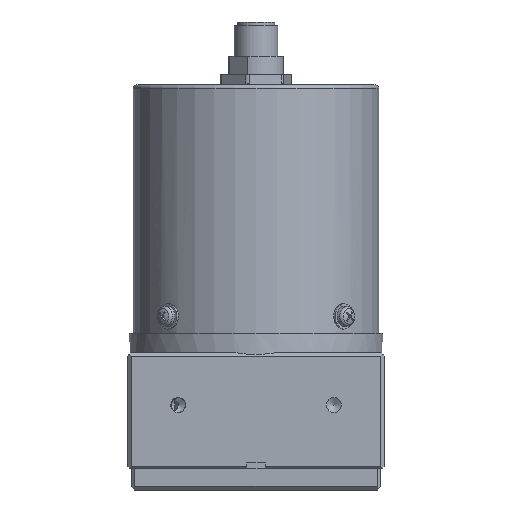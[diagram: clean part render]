
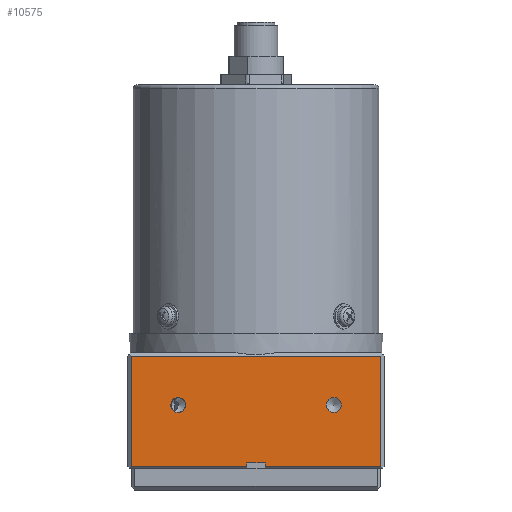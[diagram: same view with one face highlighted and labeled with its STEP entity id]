
A CAD part, front view. The second image highlights one B-rep face of the part: STEP entity #10575.
In plain terms, the highlighted planar face has unit normal (0, -1, 0).
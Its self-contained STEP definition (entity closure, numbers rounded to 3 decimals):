
#9839=CARTESIAN_POINT('',(1.,0.,-31.5));
#9840=VERTEX_POINT('',#9839);
#9847=CARTESIAN_POINT('',(1.,0.,-1.));
#9848=VERTEX_POINT('',#9847);
#9849=CARTESIAN_POINT('',(1.,0.,-31.5));
#9850=DIRECTION('',(0.0,0.0,1.0));
#9851=VECTOR('',#9850,30.5);
#9852=LINE('',#9849,#9851);
#9853=EDGE_CURVE('',#9840,#9848,#9852,.T.);
#10075=CARTESIAN_POINT('',(33.,0.,-31.5));
#10076=VERTEX_POINT('',#10075);
#10083=CARTESIAN_POINT('',(33.,0.,-31.5));
#10084=DIRECTION('',(-1.0,0.0,0.0));
#10085=VECTOR('',#10084,32.);
#10086=LINE('',#10083,#10085);
#10087=EDGE_CURVE('',#10076,#9840,#10086,.T.);
#10107=CARTESIAN_POINT('',(70.,0.,-1.));
#10108=VERTEX_POINT('',#10107);
#10115=CARTESIAN_POINT('',(70.,0.,-31.5));
#10116=VERTEX_POINT('',#10115);
#10117=CARTESIAN_POINT('',(70.,0.,-1.));
#10118=DIRECTION('',(0.0,0.0,-1.0));
#10119=VECTOR('',#10118,30.5);
#10120=LINE('',#10117,#10119);
#10121=EDGE_CURVE('',#10108,#10116,#10120,.T.);
#10374=CARTESIAN_POINT('',(59.067,0.,-14.5));
#10375=VERTEX_POINT('',#10374);
#10376=CARTESIAN_POINT('',(57.,0.0,-14.5));
#10377=DIRECTION('',(0.0,1.0,0.0));
#10378=DIRECTION('',(1.0,0.0,0.0));
#10379=AXIS2_PLACEMENT_3D('',#10376,#10377,#10378);
#10380=CIRCLE('',#10379,2.067);
#10381=EDGE_CURVE('',#10375,#10375,#10380,.T.);
#10494=CARTESIAN_POINT('',(16.067,0.,-14.5));
#10495=VERTEX_POINT('',#10494);
#10496=CARTESIAN_POINT('',(14.0,0.0,-14.5));
#10497=DIRECTION('',(0.0,1.0,0.0));
#10498=DIRECTION('',(1.0,0.0,0.0));
#10499=AXIS2_PLACEMENT_3D('',#10496,#10497,#10498);
#10500=CIRCLE('',#10499,2.067);
#10501=EDGE_CURVE('',#10495,#10495,#10500,.T.);
#10511=CARTESIAN_POINT('',(38.,0.0,-31.5));
#10512=VERTEX_POINT('',#10511);
#10521=CARTESIAN_POINT('',(70.,0.,-31.5));
#10522=DIRECTION('',(-1.0,0.0,0.0));
#10523=VECTOR('',#10522,32.);
#10524=LINE('',#10521,#10523);
#10525=EDGE_CURVE('',#10116,#10512,#10524,.T.);
#10530=CARTESIAN_POINT('',(0.0,0.0,0.0));
#10531=DIRECTION('',(0.0,-1.0,0.0));
#10532=DIRECTION('',(0.0,0.0,-1.0));
#10533=AXIS2_PLACEMENT_3D('',#10530,#10531,#10532);
#10534=PLANE('',#10533);
#10535=CARTESIAN_POINT('',(33.,0.,-30.5));
#10536=VERTEX_POINT('',#10535);
#10537=CARTESIAN_POINT('',(33.,0.,-31.5));
#10538=DIRECTION('',(0.0,0.0,1.0));
#10539=VECTOR('',#10538,1.);
#10540=LINE('',#10537,#10539);
#10541=EDGE_CURVE('',#10076,#10536,#10540,.T.);
#10542=ORIENTED_EDGE('',*,*,#10541,.T.);
#10543=CARTESIAN_POINT('',(38.,0.0,-30.5));
#10544=VERTEX_POINT('',#10543);
#10545=CARTESIAN_POINT('',(33.,0.,-30.5));
#10546=DIRECTION('',(1.0,0.0,0.0));
#10547=VECTOR('',#10546,5.);
#10548=LINE('',#10545,#10547);
#10549=EDGE_CURVE('',#10536,#10544,#10548,.T.);
#10550=ORIENTED_EDGE('',*,*,#10549,.T.);
#10551=CARTESIAN_POINT('',(38.,0.0,-30.5));
#10552=DIRECTION('',(0.0,0.0,-1.0));
#10553=VECTOR('',#10552,1.);
#10554=LINE('',#10551,#10553);
#10555=EDGE_CURVE('',#10544,#10512,#10554,.T.);
#10556=ORIENTED_EDGE('',*,*,#10555,.T.);
#10557=ORIENTED_EDGE('',*,*,#10525,.F.);
#10558=ORIENTED_EDGE('',*,*,#10121,.F.);
#10559=CARTESIAN_POINT('',(1.,0.,-1.));
#10560=DIRECTION('',(1.0,0.0,0.0));
#10561=VECTOR('',#10560,69.);
#10562=LINE('',#10559,#10561);
#10563=EDGE_CURVE('',#9848,#10108,#10562,.T.);
#10564=ORIENTED_EDGE('',*,*,#10563,.F.);
#10565=ORIENTED_EDGE('',*,*,#9853,.F.);
#10566=ORIENTED_EDGE('',*,*,#10087,.F.);
#10567=EDGE_LOOP('',(#10542,#10550,#10556,#10557,#10558,#10564,#10565,#10566));
#10568=FACE_OUTER_BOUND('',#10567,.T.);
#10569=ORIENTED_EDGE('',*,*,#10381,.T.);
#10570=EDGE_LOOP('',(#10569));
#10571=FACE_BOUND('',#10570,.T.);
#10572=ORIENTED_EDGE('',*,*,#10501,.T.);
#10573=EDGE_LOOP('',(#10572));
#10574=FACE_BOUND('',#10573,.T.);
#10575=ADVANCED_FACE('',(#10568,#10571,#10574),#10534,.T.);
